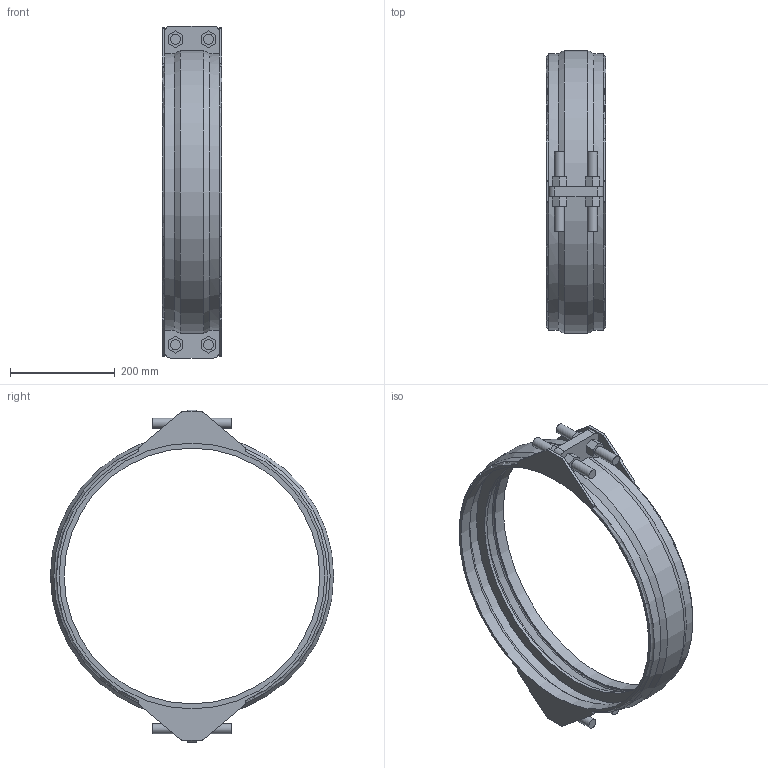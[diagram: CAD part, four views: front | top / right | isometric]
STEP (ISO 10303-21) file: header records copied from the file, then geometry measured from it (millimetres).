
FILE_DESCRIPTION(/* description */ ('VIC SS RESTRAINED COUPLING STYLE 234S (FLEX) (BRS)','CAx-IF Rec.Pracs.---Representation and Presentation of Product Manufacturing Information (PMI)---4.0---2014-10-13'),/* implementation_level */ '2;1');
FILE_NAME(/* name */ 'C:\Users\kkamble\AppData\Roaming\Autodesk\ApplicationPlugins\Back Up\Victaulic_VBSP_Coupling Flexible Restrained_Style 234S (BRS)\Victaulic_VBSP_Coupling Flexible Restrained_Style 234S (BRS)_200psi_20 (500).stp',/* time_stamp */ '2020-09-22T18:41:02+05:00',/* author */ ('Vjadhav'),/* organization */ ('Victaulic'),/* preprocessor_version */ 'ST-DEVELOPER v17.2',/* originating_system */ 'Autodesk Inventor 2019',/* authorisation */ '');
FILE_SCHEMA (('AP242_MANAGED_MODEL_BASED_3D_ENGINEERING_MIM_LF { 1 0 10303 442 1 1 4 }'));
Length unit declared in the file: inch
Products named in the file (1): Style_234S_Type_2_200psi-20.0
Bounding box: 114.3 x 541.52 x 635 mm (x, y, z)
Volume: 2036620.2 mm3; surface area: 604763.2 mm2
Topology: 1 solids, 1 shells, 151 faces, 389 edges, 260 vertices
Faces by surface type: plane 100, cylinder 39, torus 6, cone 6
Full cylindrical faces by diameter (mm): 19.05 x8, 488.95 x1, 508 x2, 531.993 x2
Entity records: 5026 total; most frequent: CARTESIAN_POINT 970, DIRECTION 813, ORIENTED_EDGE 778, EDGE_CURVE 389, AXIS2_PLACEMENT_3D 275, LINE 263, VECTOR 263, VERTEX_POINT 260
